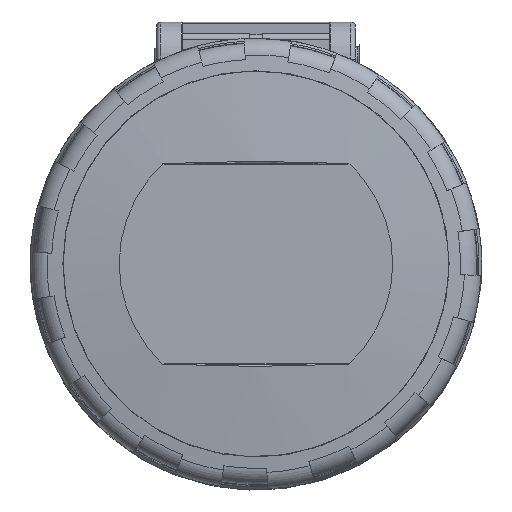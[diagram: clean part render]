
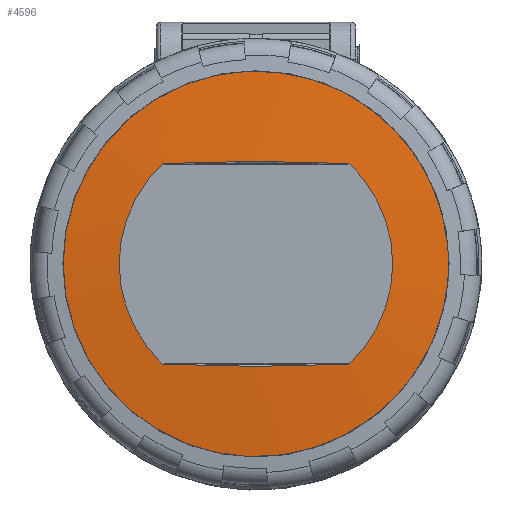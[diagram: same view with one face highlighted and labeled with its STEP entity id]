
A CAD part, top view. The second image highlights one B-rep face of the part: STEP entity #4596.
In plain terms, the highlighted spherical face has radius 256 mm.
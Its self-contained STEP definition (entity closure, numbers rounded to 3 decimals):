
#31=SPHERICAL_SURFACE('',#10883,256.);
#3165=FACE_BOUND('',#5361,.T.);
#3166=FACE_BOUND('',#5362,.T.);
#4596=ADVANCED_FACE('',(#3165,#3166),#31,.T.);
#5361=EDGE_LOOP('',(#7756,#7757,#7758,#7759));
#5362=EDGE_LOOP('',(#7760));
#5887=CIRCLE('',#10882,31.1);
#7756=ORIENTED_EDGE('',*,*,#9803,.F.);
#7757=ORIENTED_EDGE('',*,*,#9805,.F.);
#7758=ORIENTED_EDGE('',*,*,#9799,.F.);
#7759=ORIENTED_EDGE('',*,*,#9796,.F.);
#7760=ORIENTED_EDGE('',*,*,#9807,.T.);
#8619=VERTEX_POINT('',#17905);
#8621=VERTEX_POINT('',#17911);
#8623=VERTEX_POINT('',#17961);
#8626=VERTEX_POINT('',#18036);
#8627=VERTEX_POINT('',#18054);
#9796=EDGE_CURVE('',#8619,#8621,#9959,.T.);
#9799=EDGE_CURVE('',#8621,#8623,#9961,.T.);
#9803=EDGE_CURVE('',#8626,#8619,#9964,.T.);
#9805=EDGE_CURVE('',#8623,#8626,#9965,.T.);
#9807=EDGE_CURVE('',#8627,#8627,#5887,.T.);
#9959=B_SPLINE_CURVE_WITH_KNOTS('',3,(#17907,#17908,#17909,#17910),
 .UNSPECIFIED.,.F.,.F.,(4,4),(0.,1.),.UNSPECIFIED.);
#9961=B_SPLINE_CURVE_WITH_KNOTS('',3,(#17955,#17956,#17957,#17958,#17959,
#17960),.UNSPECIFIED.,.F.,.F.,(4,2,4),(0.,0.5,1.),.UNSPECIFIED.);
#9964=B_SPLINE_CURVE_WITH_KNOTS('',3,(#18037,#18038,#18039,#18040,#18041,
#18042),.UNSPECIFIED.,.F.,.F.,(4,2,4),(0.,0.5,1.),.UNSPECIFIED.);
#9965=B_SPLINE_CURVE_WITH_KNOTS('',3,(#18045,#18046,#18047,#18048),
 .UNSPECIFIED.,.F.,.F.,(4,4),(0.,1.),.UNSPECIFIED.);
#10882=AXIS2_PLACEMENT_3D('',#18053,#13181,#13182);
#10883=AXIS2_PLACEMENT_3D('',#18055,#13183,#13184);
#13181=DIRECTION('',(0.,0.,1.));
#13182=DIRECTION('',(0.,-1.,0.));
#13183=DIRECTION('',(0.,-1.,0.));
#13184=DIRECTION('',(1.,0.,0.));
#17905=CARTESIAN_POINT('',(14.978,16.16,48.95));
#17907=CARTESIAN_POINT('',(14.978,16.16,48.95));
#17908=CARTESIAN_POINT('',(5.01,16.626,49.506));
#17909=CARTESIAN_POINT('',(-5.011,16.626,49.506));
#17910=CARTESIAN_POINT('',(-14.98,16.16,48.95));
#17911=CARTESIAN_POINT('',(-14.98,16.16,48.95));
#17955=CARTESIAN_POINT('',(-14.98,16.16,48.95));
#17956=CARTESIAN_POINT('',(-19.43,12.035,48.95));
#17957=CARTESIAN_POINT('',(-22.035,6.067,48.95));
#17958=CARTESIAN_POINT('',(-22.035,-6.067,48.95));
#17959=CARTESIAN_POINT('',(-19.431,-12.034,48.95));
#17960=CARTESIAN_POINT('',(-14.98,-16.16,48.95));
#17961=CARTESIAN_POINT('',(-14.98,-16.16,48.95));
#18036=CARTESIAN_POINT('',(14.978,-16.16,48.95));
#18037=CARTESIAN_POINT('',(14.978,-16.16,48.95));
#18038=CARTESIAN_POINT('',(19.428,-12.035,48.95));
#18039=CARTESIAN_POINT('',(22.033,-6.067,48.95));
#18040=CARTESIAN_POINT('',(22.033,6.067,48.95));
#18041=CARTESIAN_POINT('',(19.429,12.034,48.95));
#18042=CARTESIAN_POINT('',(14.978,16.16,48.95));
#18045=CARTESIAN_POINT('',(-14.98,-16.16,48.95));
#18046=CARTESIAN_POINT('',(-5.011,-16.626,49.506));
#18047=CARTESIAN_POINT('',(5.01,-16.626,49.506));
#18048=CARTESIAN_POINT('',(14.978,-16.16,48.95));
#18053=CARTESIAN_POINT('',(-0.001,0.,48.004));
#18054=CARTESIAN_POINT('',(-0.001,-31.1,48.004));
#18055=CARTESIAN_POINT('',(-0.001,0.,-206.1));
